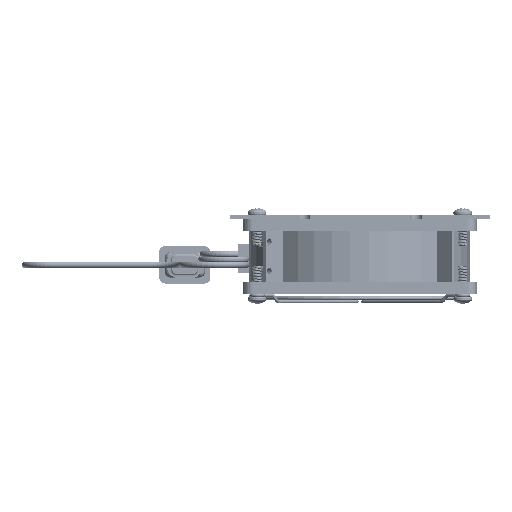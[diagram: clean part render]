
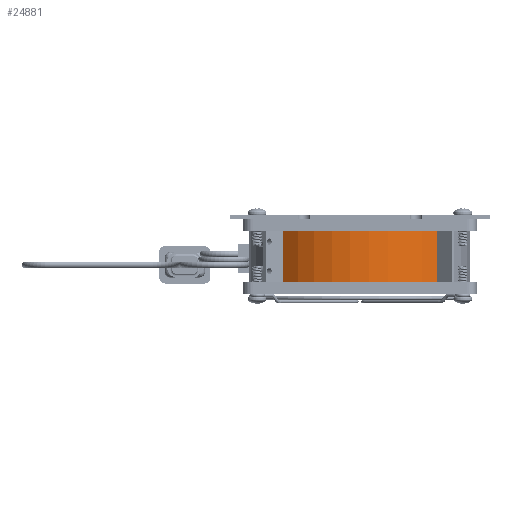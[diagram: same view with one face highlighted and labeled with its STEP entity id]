
A CAD part, front view. The second image highlights one B-rep face of the part: STEP entity #24881.
In plain terms, the highlighted cylindrical face has radius 56.5 mm (diameter 113 mm), a partial arc.
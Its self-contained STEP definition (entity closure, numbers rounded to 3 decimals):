
#24024=CARTESIAN_POINT('',(-40.652,-39.238,-26.));
#24025=VERTEX_POINT('',#24024);
#24033=CARTESIAN_POINT('',(-40.652,-39.238,0.0));
#24034=VERTEX_POINT('',#24033);
#24041=CARTESIAN_POINT('',(-40.652,-39.238,-26.));
#24042=DIRECTION('',(0.0,0.0,1.0));
#24043=VECTOR('',#24042,26.);
#24044=LINE('',#24041,#24043);
#24045=EDGE_CURVE('',#24025,#24034,#24044,.T.);
#24061=CARTESIAN_POINT('',(-40.652,39.238,-26.));
#24062=VERTEX_POINT('',#24061);
#24071=CARTESIAN_POINT('',(-40.652,39.238,0.0));
#24072=VERTEX_POINT('',#24071);
#24073=CARTESIAN_POINT('',(-40.652,39.238,0.0));
#24074=DIRECTION('',(0.0,0.0,-1.0));
#24075=VECTOR('',#24074,26.);
#24076=LINE('',#24073,#24075);
#24077=EDGE_CURVE('',#24072,#24062,#24076,.T.);
#24789=CARTESIAN_POINT('',(0.0,0.0,-26.0));
#24790=DIRECTION('',(0.0,0.0,1.0));
#24791=DIRECTION('',(1.0,0.0,0.0));
#24792=AXIS2_PLACEMENT_3D('',#24789,#24790,#24791);
#24793=CIRCLE('',#24792,56.5);
#24794=EDGE_CURVE('',#24062,#24025,#24793,.T.);
#24864=CARTESIAN_POINT('',(0.0,0.0,0.0));
#24865=DIRECTION('',(0.0,0.0,-1.0));
#24866=DIRECTION('',(1.0,0.0,0.0));
#24867=AXIS2_PLACEMENT_3D('',#24864,#24865,#24866);
#24868=CYLINDRICAL_SURFACE('',#24867,56.5);
#24869=ORIENTED_EDGE('',*,*,#24045,.T.);
#24870=CARTESIAN_POINT('',(0.0,0.0,0.0));
#24871=DIRECTION('',(0.0,0.0,1.0));
#24872=DIRECTION('',(1.0,0.0,0.0));
#24873=AXIS2_PLACEMENT_3D('',#24870,#24871,#24872);
#24874=CIRCLE('',#24873,56.5);
#24875=EDGE_CURVE('',#24072,#24034,#24874,.T.);
#24876=ORIENTED_EDGE('',*,*,#24875,.F.);
#24877=ORIENTED_EDGE('',*,*,#24077,.T.);
#24878=ORIENTED_EDGE('',*,*,#24794,.T.);
#24879=EDGE_LOOP('',(#24869,#24876,#24877,#24878));
#24880=FACE_OUTER_BOUND('',#24879,.T.);
#24881=ADVANCED_FACE('',(#24880),#24868,.T.);
